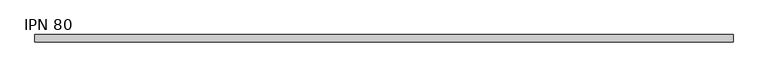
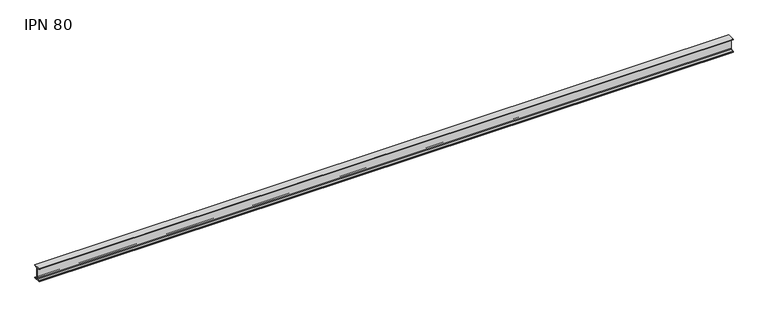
"""IFC4 building model written with IfcOpenShell, lengths in millimetres: beam geometry, IPN - Secciones en I con alas cónicas : IPN 80."""

from ifc_helpers import new_model, si_unit, point, frame, frame_2d, origin, place, context, project, spatial, polyline, circle_curve, trimmed, segment, composite_curve, outline, extrude, source, transform, mapped, element, save


def ipn_80_bc9c091f(model_context):
    return source(origin(), model_context, "Body", "SweptSolid", [
        extrude(outline(composite_curve([segment(polyline([(21.0, 40.0), (21.0, 37.5704306)]), True, "CONTINUOUS"), segment(trimmed(circle_curve(frame_2d((18.7, 37.5704306)), 2.3), [point((21.0, 37.5704306))], [point((19.01889, 35.2926446))], False, "CARTESIAN"), True, "CONTINUOUS"), segment(polyline([(19.01889, 35.2926446), (5.3092734, 33.3732983)]), True, "CONTINUOUS"), segment(trimmed(circle_curve(frame_2d((5.85, 29.5109655)), 3.9), [point((5.3092734, 33.3732983))], [point((1.95, 29.5109655))], True, "CARTESIAN"), True, "CONTINUOUS"), segment(polyline([(1.95, 29.5109655), (1.95, -29.5109655)]), True, "CONTINUOUS"), segment(trimmed(circle_curve(frame_2d((5.85, -29.5109655)), 3.9), [point((1.95, -29.5109655))], [point((5.3092734, -33.3732983))], True, "CARTESIAN"), True, "CONTINUOUS"), segment(polyline([(5.3092734, -33.3732983), (19.01889, -35.2926446)]), True, "CONTINUOUS"), segment(trimmed(circle_curve(frame_2d((18.7, -37.5704306)), 2.3), [point((19.01889, -35.2926446))], [point((21.0, -37.5704306))], False, "CARTESIAN"), True, "CONTINUOUS"), segment(polyline([(21.0, -37.5704306), (21.0, -40.0), (-21.0, -40.0), (-21.0, -37.5704306)]), True, "CONTINUOUS"), segment(trimmed(circle_curve(frame_2d((-18.7, -37.5704306)), 2.3), [point((-21.0, -37.5704306))], [point((-19.01889, -35.2926446))], False, "CARTESIAN"), True, "CONTINUOUS"), segment(polyline([(-19.01889, -35.2926446), (-5.3092734, -33.3732983)]), True, "CONTINUOUS"), segment(trimmed(circle_curve(frame_2d((-5.85, -29.5109655)), 3.9), [point((-5.3092734, -33.3732983))], [point((-1.95, -29.5109655))], True, "CARTESIAN"), True, "CONTINUOUS"), segment(polyline([(-1.95, -29.5109655), (-1.95, 29.5109655)]), True, "CONTINUOUS"), segment(trimmed(circle_curve(frame_2d((-5.85, 29.5109655)), 3.9), [point((-1.95, 29.5109655))], [point((-5.3092734, 33.3732983))], True, "CARTESIAN"), True, "CONTINUOUS"), segment(polyline([(-5.3092734, 33.3732983), (-19.01889, 35.2926446)]), True, "CONTINUOUS"), segment(trimmed(circle_curve(frame_2d((-18.7, 37.5704306)), 2.3), [point((-19.01889, 35.2926446))], [point((-21.0, 37.5704306))], False, "CARTESIAN"), True, "CONTINUOUS"), segment(polyline([(-21.0, 37.5704306), (-21.0, 40.0), (21.0, 40.0)]), True, "CONTINUOUS")], self_intersect=False)), frame((-2035.5, 0.0, 0.0), z_axis=(1.0, 0.0, 0.0), x_axis=(0.0, 1.0, 0.0)), (0.0, 0.0, 1.0), 4048.8),
    ])


if __name__ == "__main__":
    model = new_model("IFC4")
    model_context = context("Model", 3, world=origin())
    ifc_project = project(units=[si_unit("LENGTHUNIT", "METRE", prefix="MILLI")], contexts=[model_context])
    site = spatial("IfcSite", under=ifc_project)
    building = spatial("IfcBuilding", under=site)
    placement = place(None, origin())
    ipn_80_shape = ipn_80_bc9c091f(model_context)
    element("IfcBeam", 1, ObjectType="IPN - Secciones en I con alas cónicas : IPN 80", at=placement, inside=building, context=model_context, shape_type="MappedRepresentation", body=[
        mapped(ipn_80_shape, transform((0.0, 0.0, 0.0), x_axis=(1.0, 0.0, 0.0), y_axis=(0.0, 1.0, 0.0), z_axis=(0.0, 0.0, 1.0))),
    ])
    save(model, "model.ifc")
